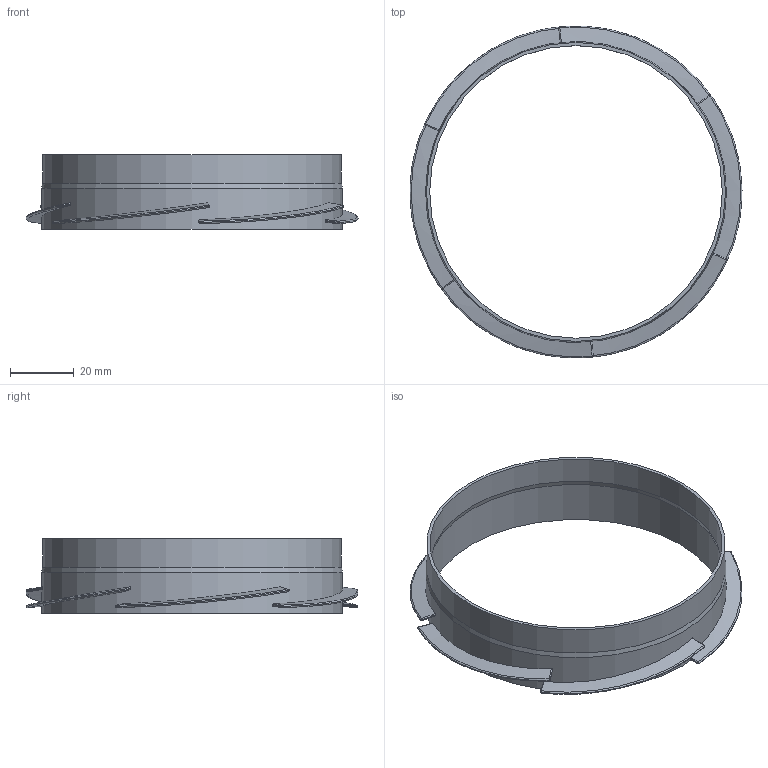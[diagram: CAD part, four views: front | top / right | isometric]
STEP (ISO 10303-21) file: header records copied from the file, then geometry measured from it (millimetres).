
FILE_DESCRIPTION(('STEP AP203'), '1');
FILE_NAME('5122400 impeller unit', '', ('UNSPECIFIED'), ('UNSPECIFIED'), 'C3D Converter', 'C3D Toolkit', '');
FILE_SCHEMA(('CONFIG_CONTROL_DESIGN'));
Length unit declared in the file: millimetre
Products named in the file (3): 5122400; 5122400.01; 5122400.02
Assembly tree (7 placements, depth 2):
  5122400
    5122400.01
    5122400.02  x6
Bounding box: 104.4 x 104.33 x 23.5 mm (x, y, z)
Volume: 8132.2 mm3; surface area: 18122.3 mm2
Topology: 7 solids, 7 shells, 104 faces, 236 edges, 146 vertices
Faces by surface type: bspline 78, plane 14, cylinder 10, cone 2
Full cylindrical faces by diameter (mm): 92 x1, 92.6 x1, 94 x1, 94.6 x1
Entity records: 2589 total; most frequent: CARTESIAN_POINT 1737, ORIENTED_EDGE 90, DIRECTION 56, EDGE_CURVE 45, B_SPLINE_CURVE_WITH_KNOTS 35, EDGE_LOOP 32, VERTEX_POINT 31, AXIS2_PLACEMENT_3D 27
